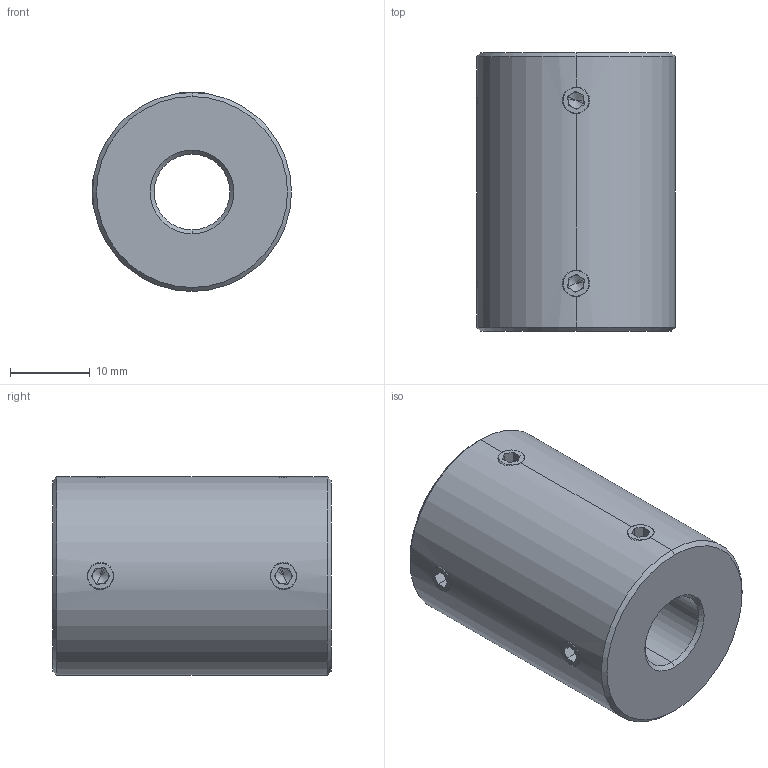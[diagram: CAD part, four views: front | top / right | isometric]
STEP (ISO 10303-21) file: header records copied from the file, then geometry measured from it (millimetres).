
FILE_DESCRIPTION (( 'STEP AP214' ), '1' );
FILE_NAME ('LL-D-D25L35-9.525-9.525½¨Ä£.STEP', '2022-07-23T00:42:06', ( '' ), ( '' ), 'SwSTEP 2.0', 'SolidWorks 2022', '' );
FILE_SCHEMA (( 'AUTOMOTIVE_DESIGN' ));
Length unit declared in the file: millimetre
Products named in the file (1): LL-D-D25L35-9.525-9.525膘耀
Bounding box: 25 x 35 x 25 mm (x, y, z)
Volume: 14501.3 mm3; surface area: 4800.2 mm2
Topology: 1 solids, 1 shells, 110 faces, 280 edges, 172 vertices
Faces by surface type: plane 58, cone 32, cylinder 20
Entity records: 3642 total; most frequent: CARTESIAN_POINT 999, ORIENTED_EDGE 544, DIRECTION 542, EDGE_CURVE 272, AXIS2_PLACEMENT_3D 199, VERTEX_POINT 172, VECTOR 144, LINE 144
